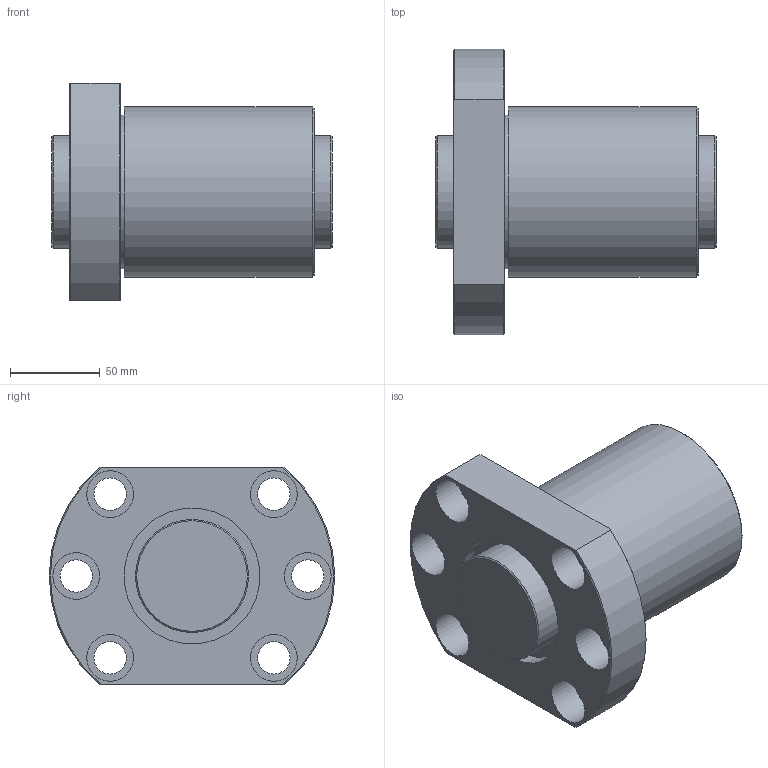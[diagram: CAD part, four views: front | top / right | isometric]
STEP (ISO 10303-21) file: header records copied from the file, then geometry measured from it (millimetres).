
FILE_DESCRIPTION(/* description */ ('STEP AP203'),/* implementation_level */ '2;1');
FILE_NAME(/* name */ 'DK6320-3RRG1+156LC0_000',/* time_stamp */ '2025-01-13T09:32:23+01:00',/* author */ ('License CC BY-ND 4.0'),/* organization */ ('CADENAS'),/* preprocessor_version */ 'ST-DEVELOPER v19.3',/* originating_system */ 'PARTsolutions',/* authorisation */ ' ');
FILE_SCHEMA (('CONFIG_CONTROL_DESIGN'));
Length unit declared in the file: millimetre
Products named in the file (3): DK6320-3RRG1+156LC0_000; DK 6320-3RR015600 Shaft; DK 6320-3RR0Nut
Assembly tree (2 placements, depth 2):
  DK6320-3RRG1+156LC0_000
    DK 6320-3RR015600 Shaft
    DK 6320-3RR0Nut
Bounding box: 156 x 159 x 121 mm (x, y, z)
Volume: 1209611.8 mm3; surface area: 150834.1 mm2
Topology: 2 solids, 2 shells, 46 faces, 94 edges, 62 vertices
Faces by surface type: cylinder 21, plane 16, cone 9
Full cylindrical faces by diameter (mm): 8.566 x1, 18 x6, 26 x6, 63 x2, 75.6 x2, 85.5 x1, 95 x1
Entity records: 1219 total; most frequent: CARTESIAN_POINT 223, DIRECTION 204, ORIENTED_EDGE 134, AXIS2_PLACEMENT_3D 98, EDGE_LOOP 96, FACE_BOUND 96, EDGE_CURVE 67, VERTEX_POINT 59
